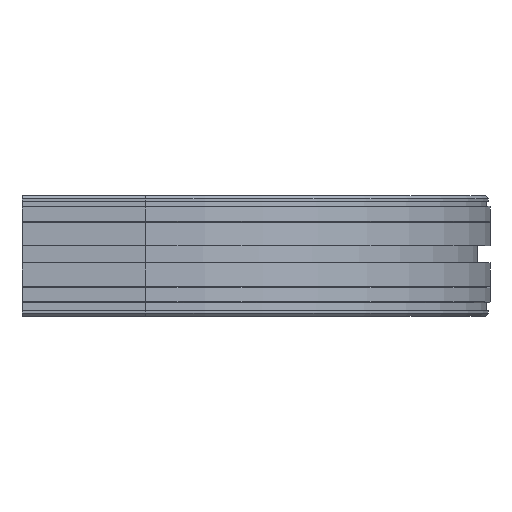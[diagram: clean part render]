
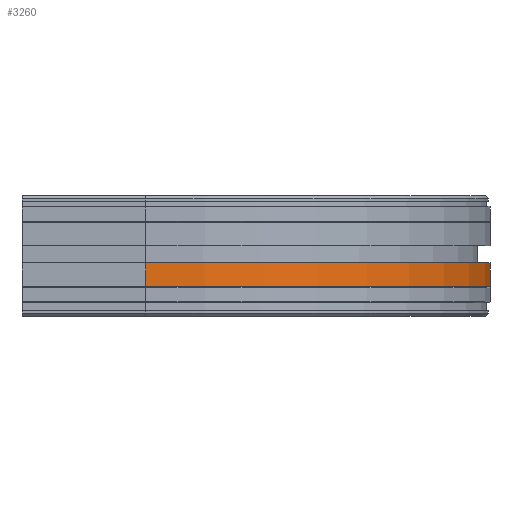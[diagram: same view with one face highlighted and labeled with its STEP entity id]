
A CAD part, front view. The second image highlights one B-rep face of the part: STEP entity #3260.
In plain terms, the highlighted cylindrical face has radius 223 mm (diameter 446 mm), a partial arc.
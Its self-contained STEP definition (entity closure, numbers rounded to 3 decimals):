
#1844=CARTESIAN_POINT('',(80.,-414.,-58.5));
#1845=VERTEX_POINT('',#1844);
#1852=CARTESIAN_POINT('',(80.,-414.,-43.5));
#1853=VERTEX_POINT('',#1852);
#1854=CARTESIAN_POINT('',(80.0,-414.,-43.5));
#1855=DIRECTION('',(0.0,0.0,-1.0));
#1856=VECTOR('',#1855,15.);
#1857=LINE('',#1854,#1856);
#1858=EDGE_CURVE('',#1853,#1845,#1857,.T.);
#3228=CARTESIAN_POINT('',(80.0,-191.,-51.));
#3229=DIRECTION('',(0.0,0.0,-1.0));
#3230=DIRECTION('',(0.0,1.0,0.0));
#3231=AXIS2_PLACEMENT_3D('',#3228,#3229,#3230);
#3232=CYLINDRICAL_SURFACE('',#3231,223.);
#3233=ORIENTED_EDGE('',*,*,#1858,.T.);
#3234=CARTESIAN_POINT('',(80.0,32.0,-58.5));
#3235=VERTEX_POINT('',#3234);
#3236=CARTESIAN_POINT('',(80.0,-191.,-58.5));
#3237=DIRECTION('',(0.0,0.0,-1.0));
#3238=DIRECTION('',(0.0,1.0,0.0));
#3239=AXIS2_PLACEMENT_3D('',#3236,#3237,#3238);
#3240=CIRCLE('',#3239,223.);
#3241=EDGE_CURVE('',#3235,#1845,#3240,.T.);
#3242=ORIENTED_EDGE('',*,*,#3241,.F.);
#3243=CARTESIAN_POINT('',(80.0,32.0,-43.5));
#3244=VERTEX_POINT('',#3243);
#3245=CARTESIAN_POINT('',(80.0,32.0,-43.5));
#3246=DIRECTION('',(0.0,0.0,-1.0));
#3247=VECTOR('',#3246,15.);
#3248=LINE('',#3245,#3247);
#3249=EDGE_CURVE('',#3244,#3235,#3248,.T.);
#3250=ORIENTED_EDGE('',*,*,#3249,.F.);
#3251=CARTESIAN_POINT('',(80.0,-191.,-43.5));
#3252=DIRECTION('',(0.0,0.0,-1.0));
#3253=DIRECTION('',(0.0,1.0,0.0));
#3254=AXIS2_PLACEMENT_3D('',#3251,#3252,#3253);
#3255=CIRCLE('',#3254,223.);
#3256=EDGE_CURVE('',#3244,#1853,#3255,.T.);
#3257=ORIENTED_EDGE('',*,*,#3256,.T.);
#3258=EDGE_LOOP('',(#3233,#3242,#3250,#3257));
#3259=FACE_OUTER_BOUND('',#3258,.T.);
#3260=ADVANCED_FACE('',(#3259),#3232,.T.);
